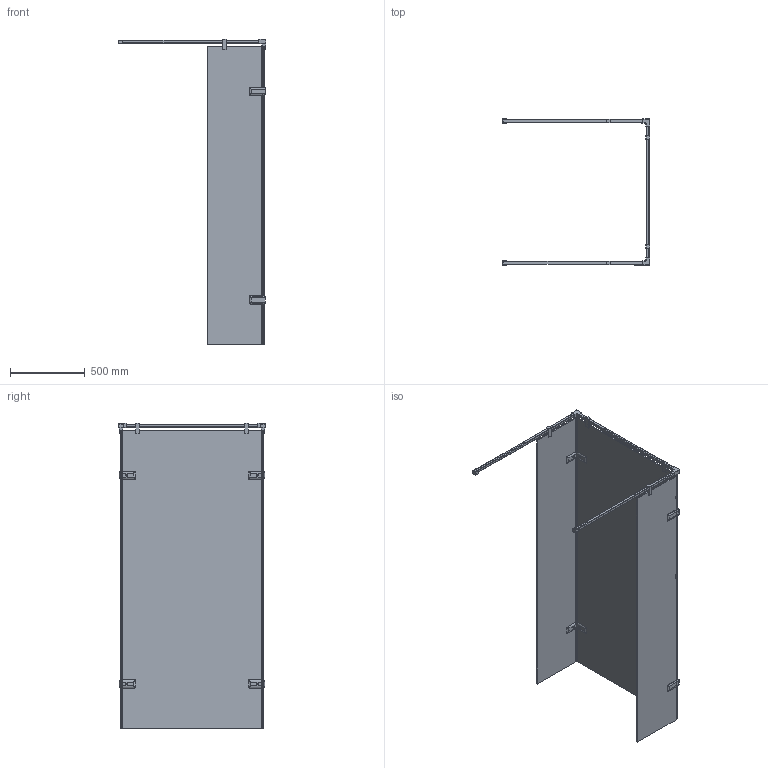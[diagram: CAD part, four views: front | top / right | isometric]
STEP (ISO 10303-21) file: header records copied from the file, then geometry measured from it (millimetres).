
FILE_DESCRIPTION(/* description */ (''),/* implementation_level */ '2;1');
FILE_NAME(/* name */ 'D:\15\GLASS LINE GK-883ONE\GLASS LINE GK-883ONE-3D.stp',/* time_stamp */ '2022-02-15T08:31:52+03:00',/* author */ ('ChechurovS'),/* organization */ (''),/* preprocessor_version */ 'ST-DEVELOPER v15.2',/* originating_system */ 'Autodesk Inventor 2014',/* authorisation */ '');
FILE_SCHEMA (('AUTOMOTIVE_DESIGN { 1 0 10303 214 3 1 1 }'));
Length unit declared in the file: millimetre
Products named in the file (1): GLASS LINE GK-883ONE-3D
Bounding box: 990.75 x 982 x 2048 mm (x, y, z)
Volume: 28945434.2 mm3; surface area: 7262321.2 mm2
Topology: 3 solids, 3 shells, 546 faces, 1382 edges, 786 vertices
Faces by surface type: plane 214, cylinder 196, sphere 60, bspline 48, torus 28
Entity records: 19664 total; most frequent: CARTESIAN_POINT 6503, DIRECTION 2628, ORIENTED_EDGE 2580, EDGE_CURVE 1290, AXIS2_PLACEMENT_3D 927, VERTEX_POINT 786, LINE 774, VECTOR 774
